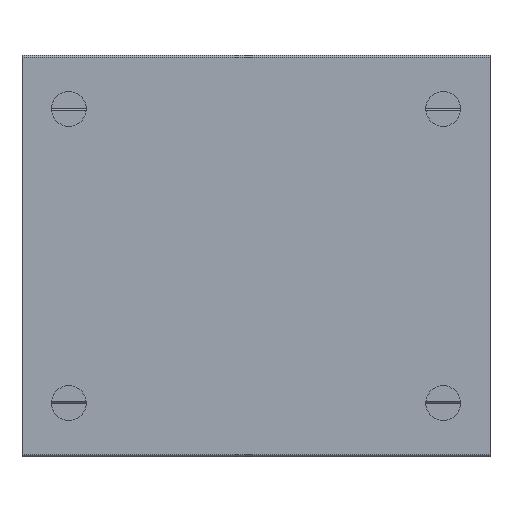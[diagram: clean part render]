
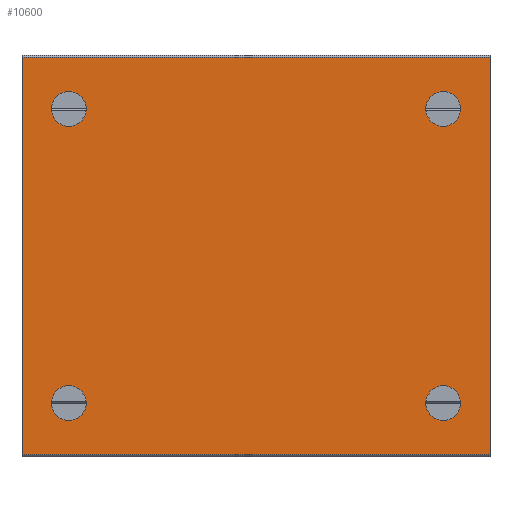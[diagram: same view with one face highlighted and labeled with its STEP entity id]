
A CAD part, front view. The second image highlights one B-rep face of the part: STEP entity #10600.
In plain terms, the highlighted planar face has unit normal (0, -1, 0).
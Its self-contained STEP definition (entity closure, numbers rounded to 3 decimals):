
#342=CIRCLE('',#11224,1.3);
#343=CIRCLE('',#11225,1.3);
#344=CIRCLE('',#11226,1.3);
#345=CIRCLE('',#11227,1.3);
#1042=ORIENTED_EDGE('',*,*,#4299,.T.);
#1043=ORIENTED_EDGE('',*,*,#4300,.F.);
#1044=ORIENTED_EDGE('',*,*,#4301,.F.);
#1045=ORIENTED_EDGE('',*,*,#4302,.F.);
#1046=ORIENTED_EDGE('',*,*,#4273,.T.);
#1047=ORIENTED_EDGE('',*,*,#4303,.F.);
#1048=ORIENTED_EDGE('',*,*,#4304,.F.);
#1049=ORIENTED_EDGE('',*,*,#4297,.T.);
#4273=EDGE_CURVE('',#5904,#5903,#6995,.T.);
#4297=EDGE_CURVE('',#5926,#5904,#7019,.T.);
#4299=EDGE_CURVE('',#5927,#5927,#342,.T.);
#4300=EDGE_CURVE('',#5928,#5928,#343,.T.);
#4301=EDGE_CURVE('',#5929,#5929,#344,.T.);
#4302=EDGE_CURVE('',#5930,#5930,#345,.T.);
#4303=EDGE_CURVE('',#5931,#5903,#7021,.T.);
#4304=EDGE_CURVE('',#5926,#5931,#7022,.T.);
#5903=VERTEX_POINT('',#15992);
#5904=VERTEX_POINT('',#15994);
#5926=VERTEX_POINT('',#16043);
#5927=VERTEX_POINT('',#16047);
#5928=VERTEX_POINT('',#16049);
#5929=VERTEX_POINT('',#16051);
#5930=VERTEX_POINT('',#16053);
#5931=VERTEX_POINT('',#16055);
#6995=LINE('',#15993,#8009);
#7019=LINE('',#16042,#8033);
#7021=LINE('',#16054,#8035);
#7022=LINE('',#16056,#8036);
#8009=VECTOR('',#12500,1000.);
#8033=VECTOR('',#12530,1000.);
#8035=VECTOR('',#12542,1000.);
#8036=VECTOR('',#12543,1000.);
#8979=EDGE_LOOP('',(#1042));
#8980=EDGE_LOOP('',(#1043));
#8981=EDGE_LOOP('',(#1044));
#8982=EDGE_LOOP('',(#1045));
#8983=EDGE_LOOP('',(#1046,#1047,#1048,#1049));
#9647=FACE_BOUND('',#8979,.T.);
#9648=FACE_BOUND('',#8980,.T.);
#9649=FACE_BOUND('',#8981,.T.);
#9650=FACE_BOUND('',#8982,.T.);
#9651=FACE_BOUND('',#8983,.T.);
#10315=PLANE('',#11223);
#10600=ADVANCED_FACE('',(#9647,#9648,#9649,#9650,#9651),#10315,.F.);
#11223=AXIS2_PLACEMENT_3D('',#16045,#12532,#12533);
#11224=AXIS2_PLACEMENT_3D('',#16046,#12534,#12535);
#11225=AXIS2_PLACEMENT_3D('',#16048,#12536,#12537);
#11226=AXIS2_PLACEMENT_3D('',#16050,#12538,#12539);
#11227=AXIS2_PLACEMENT_3D('',#16052,#12540,#12541);
#12500=DIRECTION('',(0.,0.,-1.));
#12530=DIRECTION('',(-1.,0.,0.));
#12532=DIRECTION('',(0.,1.,0.));
#12533=DIRECTION('',(0.,0.,1.));
#12534=DIRECTION('',(0.,1.,0.));
#12535=DIRECTION('',(0.,0.,1.));
#12536=DIRECTION('',(0.,-1.,0.));
#12537=DIRECTION('',(0.,0.,-1.));
#12538=DIRECTION('',(0.,-1.,0.));
#12539=DIRECTION('',(0.,0.,-1.));
#12540=DIRECTION('',(0.,-1.,0.));
#12541=DIRECTION('',(0.,0.,-1.));
#12542=DIRECTION('',(-1.,0.,0.));
#12543=DIRECTION('',(0.,0.,-1.));
#15992=CARTESIAN_POINT('',(0.,0.,-14.85));
#15993=CARTESIAN_POINT('',(0.,0.,14.85));
#15994=CARTESIAN_POINT('',(0.,0.,14.85));
#16042=CARTESIAN_POINT('',(35.,0.,14.85));
#16043=CARTESIAN_POINT('',(35.,0.,14.85));
#16045=CARTESIAN_POINT('',(35.,0.,14.85));
#16046=CARTESIAN_POINT('',(31.5,0.,11.));
#16047=CARTESIAN_POINT('',(31.5,0.,12.3));
#16048=CARTESIAN_POINT('',(31.5,0.,-11.));
#16049=CARTESIAN_POINT('',(31.5,0.,-12.3));
#16050=CARTESIAN_POINT('',(3.5,0.,-11.));
#16051=CARTESIAN_POINT('',(3.5,0.,-12.3));
#16052=CARTESIAN_POINT('',(3.5,0.,11.));
#16053=CARTESIAN_POINT('',(3.5,0.,9.7));
#16054=CARTESIAN_POINT('',(35.,0.,-14.85));
#16055=CARTESIAN_POINT('',(35.,0.,-14.85));
#16056=CARTESIAN_POINT('',(35.,0.,14.85));
